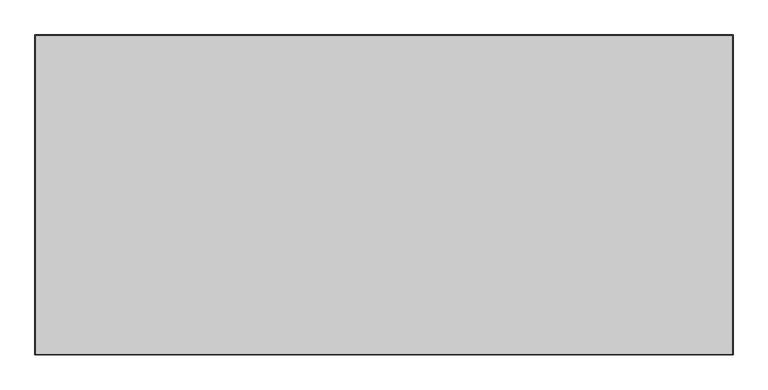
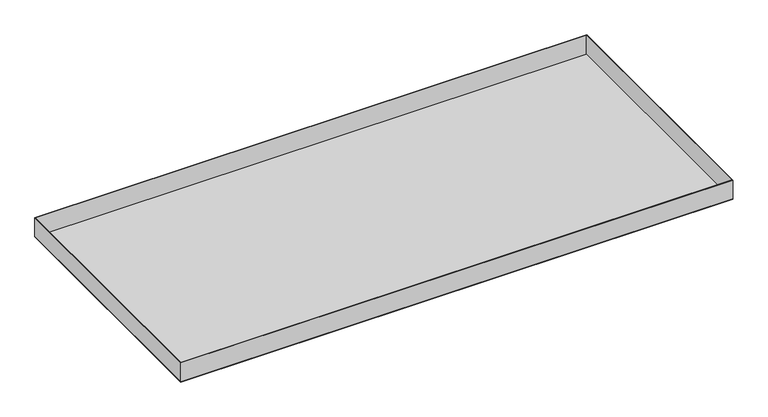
"""IFC4 building model written with IfcOpenShell, lengths in millimetres: proxy geometry, durlum_S55.4-BR_RHOMBOS_panel : durlum_S55.4-BR_RHOMBOS_panel_wall_width_cut."""

from ifc_helpers import new_model, si_unit, frame, origin, origin_with_axes, place, context, project, spatial, polyline, outline, extrude, source, transform, mapped, element, save


def generic_models_d7250844(model_context):
    return source(origin(), model_context, "Body", "SweptSolid", [
        extrude(outline(polyline([(545.0, 249.75), (545.0, -249.75), (-545.0, -249.75), (-545.0, 249.75), (545.0, 249.75)]), holes=[polyline([(544.0, 248.75), (-544.0, 248.75), (-544.0, -248.75), (544.0, -248.75), (544.0, 248.75)])]), frame((0.0, 0.0, 1.0), z_axis=(0.0, 0.0, 1.0), x_axis=(1.0, 0.0, 0.0)), (0.0, 0.0, 1.0), 39.0),
        extrude(outline(polyline([(545.0, 249.75), (545.0, -249.75), (-545.0, -249.75), (-545.0, 249.75), (545.0, 249.75)])), origin_with_axes(), (0.0, 0.0, 1.0), 1.0),
    ])


if __name__ == "__main__":
    model = new_model("IFC4")
    model_context = context("Model", 3, world=origin())
    ifc_project = project(units=[si_unit("LENGTHUNIT", "METRE", prefix="MILLI")], contexts=[model_context])
    site = spatial("IfcSite", under=ifc_project)
    building = spatial("IfcBuilding", under=site)
    placement = place(None, origin())
    generic_models_shape = generic_models_d7250844(model_context)
    element("IfcBuildingElementProxy", 1, Name="durlum_S55.4-BR_RHOMBOS_panel : durlum_S55.4-BR_RHOMBOS_panel_wall_width_cut", ObjectType="durlum_S55.4-BR_RHOMBOS_panel : durlum_S55.4-BR_RHOMBOS_panel_wall_width_cut", at=placement, inside=building, context=model_context, shape_type="MappedRepresentation", body=[
        mapped(generic_models_shape, transform((0.0, 0.0, 0.0), x_axis=(1.0, 0.0, 0.0), y_axis=(0.0, 1.0, 0.0), z_axis=(0.0, 0.0, 1.0))),
    ])
    save(model, "model.ifc")
